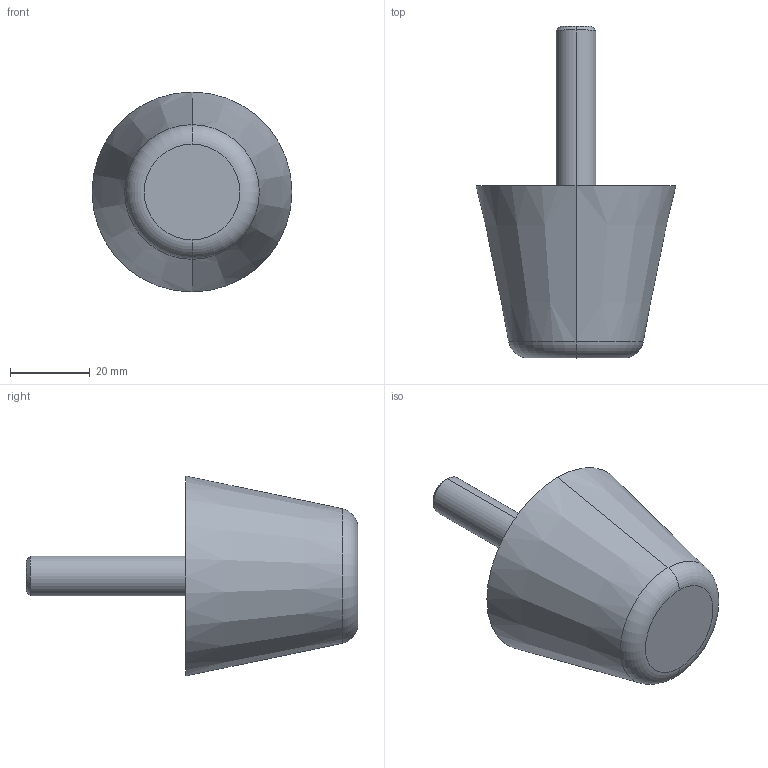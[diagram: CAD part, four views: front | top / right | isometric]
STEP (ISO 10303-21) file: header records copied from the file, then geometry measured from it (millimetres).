
FILE_DESCRIPTION (( 'STEP AP214' ), '1' );
FILE_NAME ('253-50-M10-40-70.step', '2023-03-24T07:38:45', ( '' ), ( '' ), 'SwSTEP 2.0', 'SolidWorks 2022', '' );
FILE_SCHEMA (( 'AUTOMOTIVE_DESIGN' ));
Length unit declared in the file: millimetre
Products named in the file (1): 253-50-M10-40-70
Bounding box: 50 x 82.99 x 50 mm (x, y, z)
Volume: 60481.1 mm3; surface area: 9525.6 mm2
Topology: 1 solids, 1 shells, 14 faces, 26 edges, 16 vertices
Faces by surface type: cone 6, plane 4, cylinder 2, torus 2
Entity records: 500 total; most frequent: DIRECTION 74, CARTESIAN_POINT 57, ORIENTED_EDGE 52, AXIS2_PLACEMENT_3D 33, EDGE_CURVE 26, CIRCLE 18, EDGE_LOOP 16, VERTEX_POINT 16
